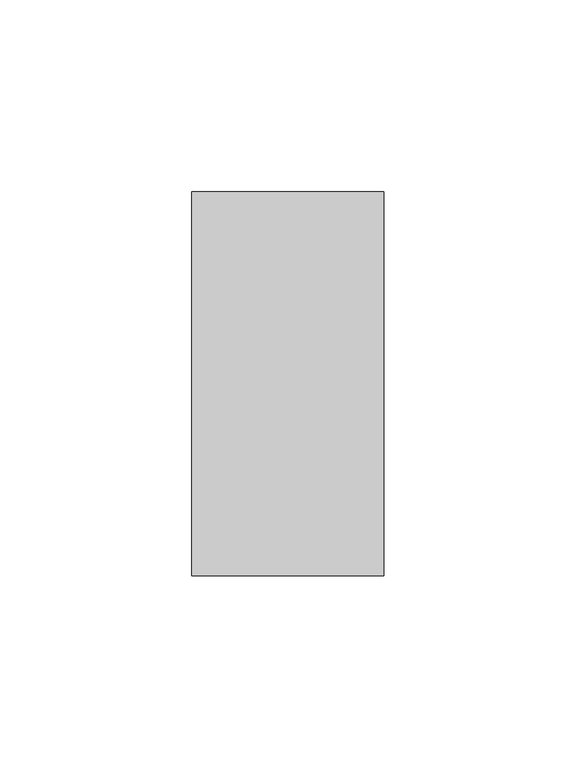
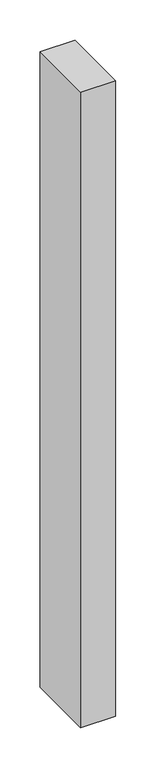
"""IFC4 building model written with IfcOpenShell, lengths in millimetres: member geometry, Прямоугольный импост : 50х100."""

from ifc_helpers import new_model, si_unit, frame, origin, place, context, project, spatial, polyline, outline, extrude, source, transform, mapped, element, save


def member_59bd0e1b(model_context):
    return source(origin(), model_context, "Body", "SweptSolid", [
        extrude(outline(polyline([(25.0, 50.0), (25.0, -50.0), (-25.0, -50.0), (-25.0, 50.0), (25.0, 50.0)])), frame((0.0, 0.0, -960.0), z_axis=(0.0, 0.0, 1.0), x_axis=(1.0, 0.0, 0.0)), (0.0, 0.0, 1.0), 960.0),
    ])


if __name__ == "__main__":
    model = new_model("IFC4")
    model_context = context("Model", 3, world=origin())
    ifc_project = project(units=[si_unit("LENGTHUNIT", "METRE", prefix="MILLI")], contexts=[model_context])
    site = spatial("IfcSite", under=ifc_project)
    building = spatial("IfcBuilding", under=site)
    placement = place(None, origin())
    member_shape = member_59bd0e1b(model_context)
    element("IfcMember", 1, ObjectType="Прямоугольный импост : 50х100", at=placement, inside=building, context=model_context, shape_type="MappedRepresentation", body=[
        mapped(member_shape, transform((0.0, 0.0, 0.0), x_axis=(1.0, 0.0, 0.0), y_axis=(0.0, 1.0, 0.0), z_axis=(0.0, 0.0, 1.0))),
    ])
    save(model, "model.ifc")
